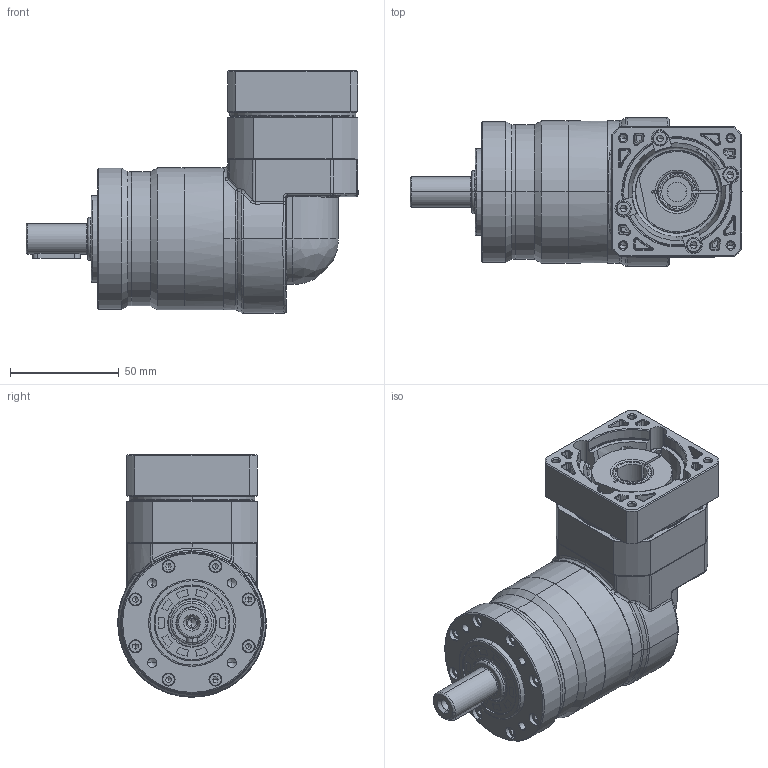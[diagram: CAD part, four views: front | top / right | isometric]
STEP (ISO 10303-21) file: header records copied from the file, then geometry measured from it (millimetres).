
FILE_DESCRIPTION (( 'STEP AP214' ), '1' );
FILE_NAME ('FER060-L1-S2-P1 14-50-70-M4-33.STEP', '2025-02-19T01:08:47', ( '微软用户' ), ( '微软中国' ), 'SwSTEP 2.0', 'SolidWorks 2021', '' );
FILE_SCHEMA (( 'AUTOMOTIVE_DESIGN' ));
Length unit declared in the file: millimetre
Products named in the file (4): 3.EVT064F眻褒眊极_step_stp_stp.stp; FER060D-L1-14-50-70-M4-33; FER060-L1-S2-P1 14-50-70-M4-33; EVT060D-L2-8-38.1-66.7-M4-33
Assembly tree (7 placements, depth 2):
  FER060-L1-S2-P1 14-50-70-M4-33
    FER060D-L1-14-50-70-M4-33
    3.EVT064F眻褒眊极_step_stp_stp.stp
    EVT060D-L2-8-38.1-66.7-M4-33  x5
Bounding box: 153 x 68.5 x 111.75 mm (x, y, z)
Volume: 92080.2 mm3; surface area: 119910.9 mm2
Topology: 1 solids, 43 shells, 1686 faces, 4214 edges, 2628 vertices
Faces by surface type: cylinder 541, plane 474, cone 289, bspline 226, torus 156
Entity records: 65639 total; most frequent: CARTESIAN_POINT 30304, ORIENTED_EDGE 7532, DIRECTION 6940, EDGE_CURVE 3799, AXIS2_PLACEMENT_3D 2832, VERTEX_POINT 2416, EDGE_LOOP 1742, FACE_OUTER_BOUND 1558
